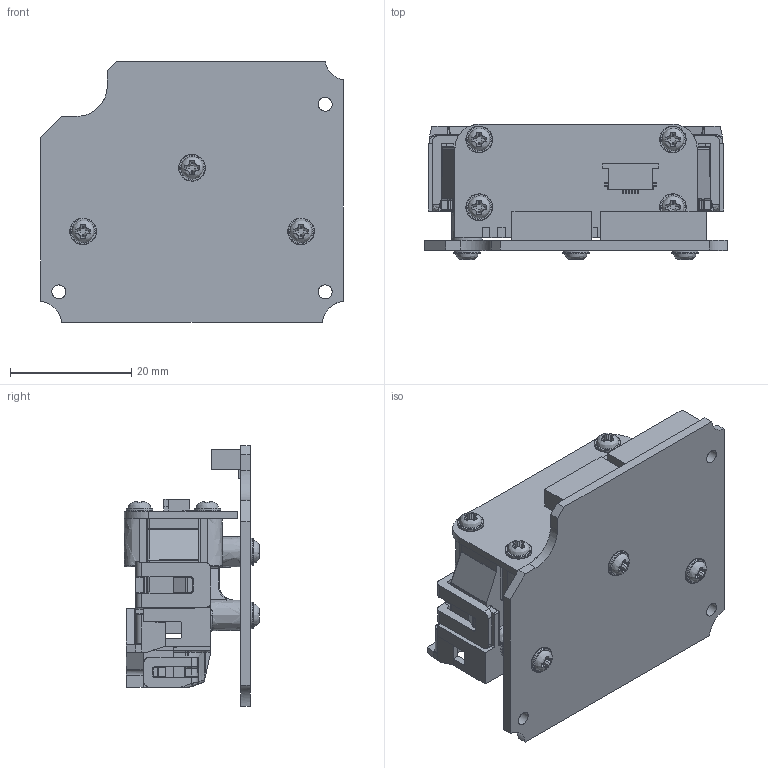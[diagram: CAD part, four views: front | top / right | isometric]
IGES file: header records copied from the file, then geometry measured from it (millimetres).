
Global section: file name: C:\studi10\ASS-SCAN-ENGINE.igs; preprocessor: I-DEAS 3D IGES Translator 13; date: 20110303.112806; units: millimetre
Bounding box: 50 x 22.34 x 43 mm (x, y, z)
Volume: 11060.5 mm3; surface area: 18679.1 mm2
Topology: 19 solids, 19 shells, 2255 faces, 6719 edges, 4766 vertices
Faces by surface type: bspline 2255
